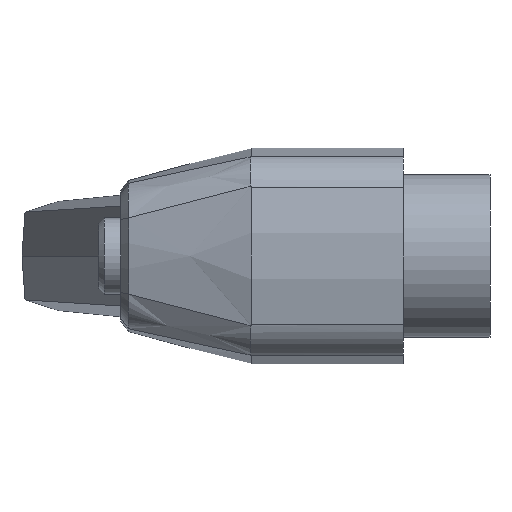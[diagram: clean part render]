
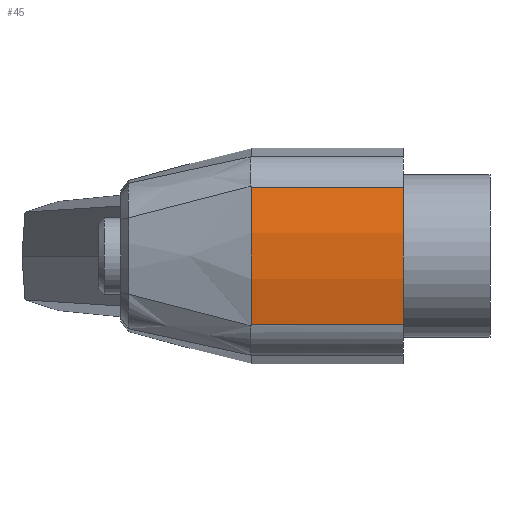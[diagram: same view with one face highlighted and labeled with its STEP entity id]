
A CAD part, left-side view. The second image highlights one B-rep face of the part: STEP entity #45.
In plain terms, the highlighted cylindrical face has radius 24.533 mm (diameter 49.066 mm), a partial arc.
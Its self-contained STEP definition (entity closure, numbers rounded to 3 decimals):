
#1 = DIRECTION ( 'NONE',  ( 0., -1., 0. ) ) ;
#45 = ADVANCED_FACE ( 'NONE', ( #1552 ), #152, .T. ) ;
#81 = EDGE_CURVE ( 'NONE', #1219, #490, #1543, .T. ) ;
#152 = CYLINDRICAL_SURFACE ( 'NONE', #595, 24.533 ) ;
#178 = EDGE_CURVE ( 'NONE', #1389, #1219, #1321, .T. ) ;
#202 = CARTESIAN_POINT ( 'NONE',  ( -9.168, 14., 6.336 ) ) ;
#337 = VECTOR ( 'NONE', #1457, 1000. ) ;
#377 = DIRECTION ( 'NONE',  ( 0., -1., 0. ) ) ;
#407 = EDGE_CURVE ( 'NONE', #1389, #1532, #466, .T. ) ;
#454 = DIRECTION ( 'NONE',  ( 0., 0., 1. ) ) ;
#466 = CIRCLE ( 'NONE', #921, 24.533 ) ;
#490 = VERTEX_POINT ( 'NONE', #816 ) ;
#532 = CARTESIAN_POINT ( 'NONE',  ( -9.168, 14., -6.336 ) ) ;
#595 = AXIS2_PLACEMENT_3D ( 'NONE', #1572, #1, #793 ) ;
#784 = ORIENTED_EDGE ( 'NONE', *, *, #178, .T. ) ;
#793 = DIRECTION ( 'NONE',  ( 0., 0., -1. ) ) ;
#816 = CARTESIAN_POINT ( 'NONE',  ( -9.168, 0., 6.336 ) ) ;
#921 = AXIS2_PLACEMENT_3D ( 'NONE', #1290, #1168, #1783 ) ;
#926 = ORIENTED_EDGE ( 'NONE', *, *, #407, .F. ) ;
#970 = CARTESIAN_POINT ( 'NONE',  ( 14.533, 0., 0. ) ) ;
#1049 = CARTESIAN_POINT ( 'NONE',  ( -9.168, 14., 6.336 ) ) ;
#1051 = VECTOR ( 'NONE', #377, 1000. ) ;
#1101 = ORIENTED_EDGE ( 'NONE', *, *, #1828, .T. ) ;
#1168 = DIRECTION ( 'NONE',  ( 0., 1., 0. ) ) ;
#1182 = CARTESIAN_POINT ( 'NONE',  ( -9.168, 14., -6.336 ) ) ;
#1190 = AXIS2_PLACEMENT_3D ( 'NONE', #970, #1866, #454 ) ;
#1219 = VERTEX_POINT ( 'NONE', #1452 ) ;
#1290 = CARTESIAN_POINT ( 'NONE',  ( 14.533, 14., 0. ) ) ;
#1321 = LINE ( 'NONE', #532, #1051 ) ;
#1389 = VERTEX_POINT ( 'NONE', #1182 ) ;
#1452 = CARTESIAN_POINT ( 'NONE',  ( -9.168, 0., -6.336 ) ) ;
#1457 = DIRECTION ( 'NONE',  ( 0., 1., 0. ) ) ;
#1532 = VERTEX_POINT ( 'NONE', #1049 ) ;
#1543 = CIRCLE ( 'NONE', #1190, 24.533 ) ;
#1552 = FACE_OUTER_BOUND ( 'NONE', #1839, .T. ) ;
#1572 = CARTESIAN_POINT ( 'NONE',  ( 14.533, 14., 0. ) ) ;
#1606 = LINE ( 'NONE', #202, #337 ) ;
#1783 = DIRECTION ( 'NONE',  ( 0., 0., -1. ) ) ;
#1828 = EDGE_CURVE ( 'NONE', #490, #1532, #1606, .T. ) ;
#1836 = ORIENTED_EDGE ( 'NONE', *, *, #81, .T. ) ;
#1839 = EDGE_LOOP ( 'NONE', ( #926, #784, #1836, #1101 ) ) ;
#1866 = DIRECTION ( 'NONE',  ( 0., 1., 0. ) ) ;
